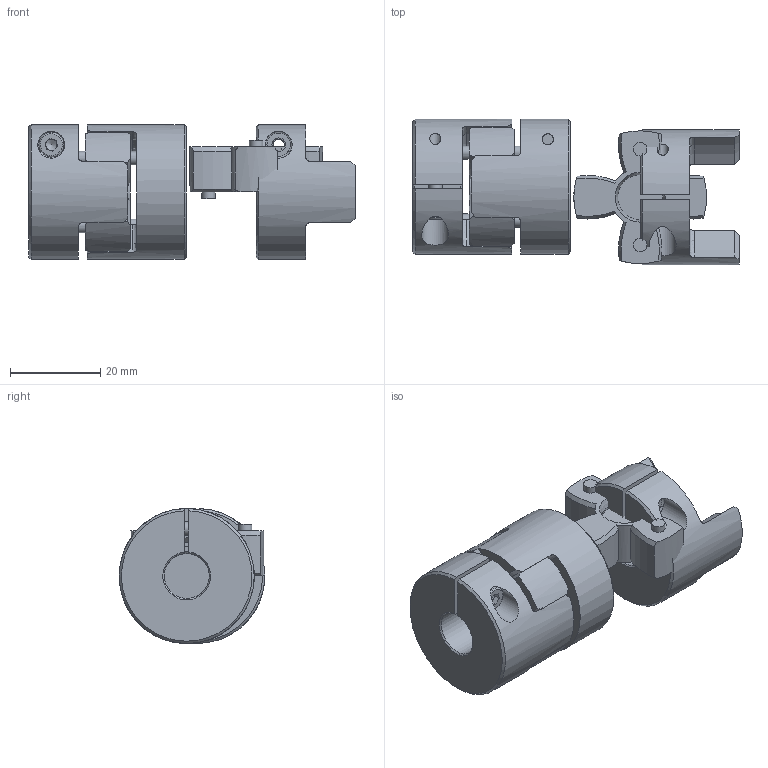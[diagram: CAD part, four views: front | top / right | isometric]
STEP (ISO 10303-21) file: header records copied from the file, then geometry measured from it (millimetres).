
FILE_DESCRIPTION( ( 'Unknown' ), '1' );
FILE_NAME( 'C:/Dokumente und Einstellungen/Sven/Desktop/homepage/cad - homepage/KBE2/KBE2-14.stp', 'Unknown', ( 'Unknown' ), ( 'Unknown' ), 'XStep 1.0', 'Unknown', ' ' );
FILE_SCHEMA( ( 'automotive_design' ) );
Length unit declared in the file: millimetre
Products named in the file (4): Assem1; KN14_Standard; Socket Head Cap Screw_DIN_DIN 912 M3 x 10 --- 10C; ZK14_Standard
Bounding box: 72.52 x 32.34 x 30 mm (x, y, z)
Volume: 31849.1 mm3; surface area: 16042.8 mm2
Topology: 8 solids, 8 shells, 264 faces, 644 edges, 417 vertices
Faces by surface type: plane 94, cylinder 83, cone 66, torus 21
Full cylindrical faces by diameter (mm): 2.5 x3, 3 x17, 5.5 x3, 6 x3, 10 x4
Entity records: 3548 total; most frequent: CARTESIAN_POINT 834, DIRECTION 512, ORIENTED_EDGE 460, EDGE_CURVE 230, AXIS2_PLACEMENT_3D 226, VERTEX_POINT 161, EDGE_LOOP 136, FACE_OUTER_BOUND 119
